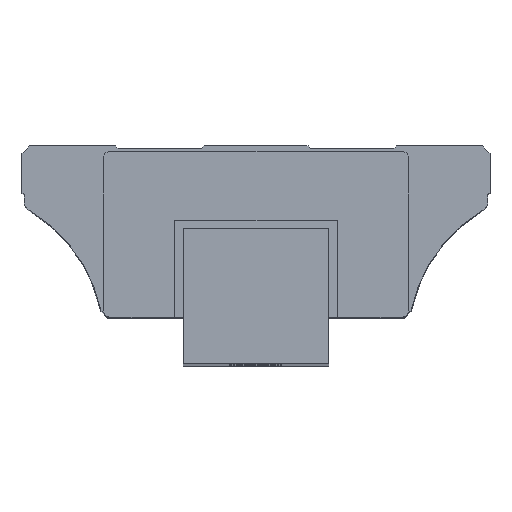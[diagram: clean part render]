
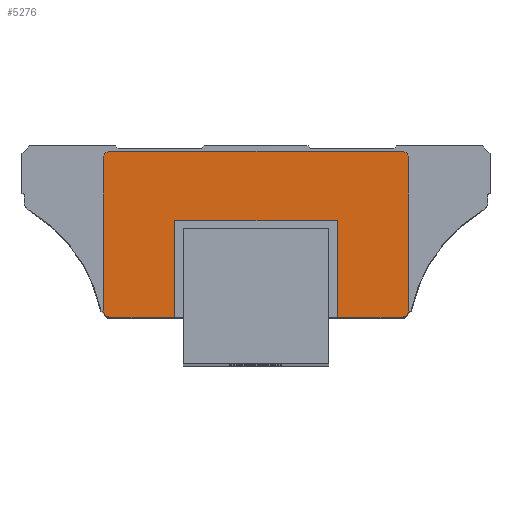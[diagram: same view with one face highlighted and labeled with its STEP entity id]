
A CAD part, top view. The second image highlights one B-rep face of the part: STEP entity #5276.
In plain terms, the highlighted planar face has unit normal (0, 0, 1).
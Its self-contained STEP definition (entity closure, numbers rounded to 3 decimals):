
#4893=CARTESIAN_POINT('',(-13.9,9.,202.15));
#4894=VERTEX_POINT('',#4893);
#4901=CARTESIAN_POINT('',(-15.4,10.5,202.15));
#4902=VERTEX_POINT('',#4901);
#4903=CARTESIAN_POINT('',(-13.9,10.5,202.15));
#4904=DIRECTION('',(0.0,0.0,1.0));
#4905=DIRECTION('',(1.0,0.0,0.0));
#4906=AXIS2_PLACEMENT_3D('',#4903,#4904,#4905);
#4907=CIRCLE('',#4906,1.5);
#4908=EDGE_CURVE('',#4902,#4894,#4907,.T.);
#4932=CARTESIAN_POINT('',(0.,9.,202.15));
#4933=VERTEX_POINT('',#4932);
#4940=CARTESIAN_POINT('',(0.,9.,202.15));
#4941=DIRECTION('',(-1.0,0.0,0.0));
#4942=VECTOR('',#4941,1.0);
#4943=LINE('',#4940,#4942);
#4944=EDGE_CURVE('',#4933,#4894,#4943,.T.);
#4963=CARTESIAN_POINT('',(0.,26.,202.15));
#4964=VERTEX_POINT('',#4963);
#4971=CARTESIAN_POINT('',(0.,26.0,202.15));
#4972=DIRECTION('',(0.,-1.,0.0));
#4973=VECTOR('',#4972,1.);
#4974=LINE('',#4971,#4973);
#4975=EDGE_CURVE('',#4964,#4933,#4974,.T.);
#4994=CARTESIAN_POINT('',(28.,26.,202.15));
#4995=VERTEX_POINT('',#4994);
#5002=CARTESIAN_POINT('',(28.,26.,202.15));
#5003=DIRECTION('',(-1.0,0.0,0.0));
#5004=VECTOR('',#5003,1.0);
#5005=LINE('',#5002,#5004);
#5006=EDGE_CURVE('',#4995,#4964,#5005,.T.);
#5025=CARTESIAN_POINT('',(28.,9.,202.15));
#5026=VERTEX_POINT('',#5025);
#5033=CARTESIAN_POINT('',(28.,9.,202.15));
#5034=DIRECTION('',(0.,1.,0.0));
#5035=VECTOR('',#5034,1.);
#5036=LINE('',#5033,#5035);
#5037=EDGE_CURVE('',#5026,#4995,#5036,.T.);
#5056=CARTESIAN_POINT('',(41.9,9.,202.15));
#5057=VERTEX_POINT('',#5056);
#5064=CARTESIAN_POINT('',(41.9,9.,202.15));
#5065=DIRECTION('',(-1.0,0.0,0.0));
#5066=VECTOR('',#5065,1.0);
#5067=LINE('',#5064,#5066);
#5068=EDGE_CURVE('',#5057,#5026,#5067,.T.);
#5088=CARTESIAN_POINT('',(43.4,10.5,202.15));
#5089=VERTEX_POINT('',#5088);
#5096=CARTESIAN_POINT('',(41.9,10.5,202.15));
#5097=DIRECTION('',(0.0,0.0,1.0));
#5098=DIRECTION('',(1.0,0.0,0.0));
#5099=AXIS2_PLACEMENT_3D('',#5096,#5097,#5098);
#5100=CIRCLE('',#5099,1.5);
#5101=EDGE_CURVE('',#5057,#5089,#5100,.T.);
#5120=CARTESIAN_POINT('',(43.4,39.5,202.15));
#5121=VERTEX_POINT('',#5120);
#5128=CARTESIAN_POINT('',(43.4,39.5,202.15));
#5129=DIRECTION('',(0.,-1.0,0.0));
#5130=VECTOR('',#5129,1.0);
#5131=LINE('',#5128,#5130);
#5132=EDGE_CURVE('',#5121,#5089,#5131,.T.);
#5152=CARTESIAN_POINT('',(41.9,41.,202.15));
#5153=VERTEX_POINT('',#5152);
#5160=CARTESIAN_POINT('',(41.9,39.5,202.15));
#5161=DIRECTION('',(0.0,0.0,1.0));
#5162=DIRECTION('',(1.0,0.0,0.0));
#5163=AXIS2_PLACEMENT_3D('',#5160,#5161,#5162);
#5164=CIRCLE('',#5163,1.5);
#5165=EDGE_CURVE('',#5121,#5153,#5164,.T.);
#5184=CARTESIAN_POINT('',(-13.9,41.,202.15));
#5185=VERTEX_POINT('',#5184);
#5192=CARTESIAN_POINT('',(-13.9,41.,202.15));
#5193=DIRECTION('',(1.0,0.0,0.0));
#5194=VECTOR('',#5193,1.0);
#5195=LINE('',#5192,#5194);
#5196=EDGE_CURVE('',#5185,#5153,#5195,.T.);
#5216=CARTESIAN_POINT('',(-15.4,39.5,202.15));
#5217=VERTEX_POINT('',#5216);
#5224=CARTESIAN_POINT('',(-13.9,39.5,202.15));
#5225=DIRECTION('',(0.0,0.0,-1.0));
#5226=DIRECTION('',(1.0,0.0,0.0));
#5227=AXIS2_PLACEMENT_3D('',#5224,#5225,#5226);
#5228=CIRCLE('',#5227,1.5);
#5229=EDGE_CURVE('',#5217,#5185,#5228,.T.);
#5247=CARTESIAN_POINT('',(-15.4,10.5,202.15));
#5248=DIRECTION('',(0.0,1.0,0.0));
#5249=VECTOR('',#5248,1.0);
#5250=LINE('',#5247,#5249);
#5251=EDGE_CURVE('',#4902,#5217,#5250,.T.);
#5257=CARTESIAN_POINT('',(-13.9,10.5,202.15));
#5258=DIRECTION('',(0.0,0.0,1.0));
#5259=DIRECTION('',(1.0,0.0,0.0));
#5260=AXIS2_PLACEMENT_3D('',#5257,#5258,#5259);
#5261=PLANE('',#5260);
#5262=ORIENTED_EDGE('',*,*,#4908,.T.);
#5263=ORIENTED_EDGE('',*,*,#4944,.F.);
#5264=ORIENTED_EDGE('',*,*,#4975,.F.);
#5265=ORIENTED_EDGE('',*,*,#5006,.F.);
#5266=ORIENTED_EDGE('',*,*,#5037,.F.);
#5267=ORIENTED_EDGE('',*,*,#5068,.F.);
#5268=ORIENTED_EDGE('',*,*,#5101,.T.);
#5269=ORIENTED_EDGE('',*,*,#5132,.F.);
#5270=ORIENTED_EDGE('',*,*,#5165,.T.);
#5271=ORIENTED_EDGE('',*,*,#5196,.F.);
#5272=ORIENTED_EDGE('',*,*,#5229,.F.);
#5273=ORIENTED_EDGE('',*,*,#5251,.F.);
#5274=EDGE_LOOP('',(#5262,#5263,#5264,#5265,#5266,#5267,#5268,#5269,#5270,#5271,#5272,#5273));
#5275=FACE_OUTER_BOUND('',#5274,.T.);
#5276=ADVANCED_FACE('',(#5275),#5261,.T.);
